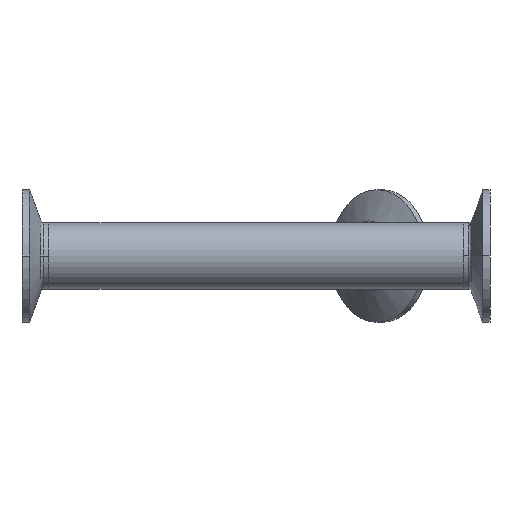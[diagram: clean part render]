
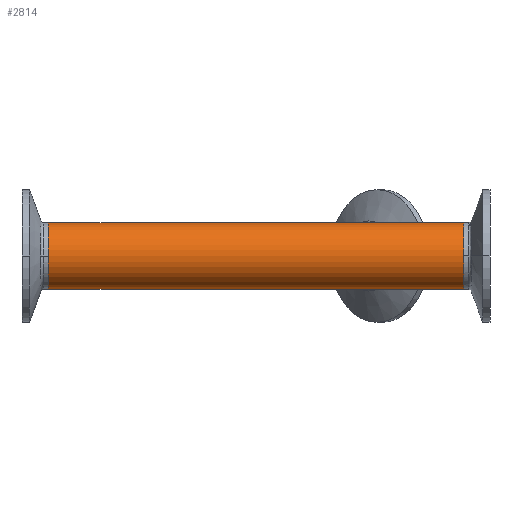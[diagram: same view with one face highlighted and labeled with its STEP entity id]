
A CAD part, front view. The second image highlights one B-rep face of the part: STEP entity #2814.
In plain terms, the highlighted cylindrical face has radius 12.7 mm (diameter 25.4 mm), a partial arc.
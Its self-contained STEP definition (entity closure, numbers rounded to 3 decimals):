
#19 = DIRECTION ( 'NONE',  ( 0., 0., -1. ) ) ;
#76 = CARTESIAN_POINT ( 'NONE',  ( -28.1, 0., 12.7 ) ) ;
#132 = ORIENTED_EDGE ( 'NONE', *, *, #3194, .F. ) ;
#209 = VERTEX_POINT ( 'NONE', #2159 ) ;
#237 = VECTOR ( 'NONE', #2610, 1000. ) ;
#310 = CARTESIAN_POINT ( 'NONE',  ( -28.1, 0., -12.7 ) ) ;
#371 = AXIS2_PLACEMENT_3D ( 'NONE', #687, #1314, #19 ) ;
#625 = ORIENTED_EDGE ( 'NONE', *, *, #4025, .T. ) ;
#673 = ORIENTED_EDGE ( 'NONE', *, *, #3309, .F. ) ;
#687 = CARTESIAN_POINT ( 'NONE',  ( -28.1, 0., 0. ) ) ;
#845 = CARTESIAN_POINT ( 'NONE',  ( -28.1, 0., 12.7 ) ) ;
#888 = LINE ( 'NONE', #76, #3374 ) ;
#919 = ORIENTED_EDGE ( 'NONE', *, *, #3174, .T. ) ;
#986 = CARTESIAN_POINT ( 'NONE',  ( -28.1, 0., 12.7 ) ) ;
#1001 = EDGE_CURVE ( 'NONE', #209, #2035, #1694, .T. ) ;
#1026 = DIRECTION ( 'NONE',  ( 1., 0., 0. ) ) ;
#1152 = CYLINDRICAL_SURFACE ( 'NONE', #371, 12.7 ) ;
#1214 = CARTESIAN_POINT ( 'NONE',  ( 129.7, 0., 12.7 ) ) ;
#1257 = DIRECTION ( 'NONE',  ( 1., 0., 0. ) ) ;
#1258 = DIRECTION ( 'NONE',  ( 1., 0., 0. ) ) ;
#1273 = LINE ( 'NONE', #986, #237 ) ;
#1314 = DIRECTION ( 'NONE',  ( 1., 0., 0. ) ) ;
#1525 = VERTEX_POINT ( 'NONE', #845 ) ;
#1694 = LINE ( 'NONE', #310, #4203 ) ;
#1743 = ORIENTED_EDGE ( 'NONE', *, *, #1001, .T. ) ;
#1848 = DIRECTION ( 'NONE',  ( -1., 0., 0. ) ) ;
#1857 = DIRECTION ( 'NONE',  ( 1., 0., 0. ) ) ;
#2035 = VERTEX_POINT ( 'NONE', #2563 ) ;
#2087 = EDGE_CURVE ( 'NONE', #1525, #209, #2882, .T. ) ;
#2091 = VERTEX_POINT ( 'NONE', #2251 ) ;
#2159 = CARTESIAN_POINT ( 'NONE',  ( -28.1, 0., -12.7 ) ) ;
#2172 = LINE ( 'NONE', #3553, #3225 ) ;
#2251 = CARTESIAN_POINT ( 'NONE',  ( 0., 0., 12.7 ) ) ;
#2330 = VERTEX_POINT ( 'NONE', #3655 ) ;
#2563 = CARTESIAN_POINT ( 'NONE',  ( 0., 0., -12.7 ) ) ;
#2610 = DIRECTION ( 'NONE',  ( 1., 0., 0. ) ) ;
#2814 = ADVANCED_FACE ( 'NONE', ( #2874 ), #1152, .T. ) ;
#2874 = FACE_OUTER_BOUND ( 'NONE', #3815, .T. ) ;
#2882 = CIRCLE ( 'NONE', #3950, 12.7 ) ;
#3098 = VERTEX_POINT ( 'NONE', #1214 ) ;
#3174 = EDGE_CURVE ( 'NONE', #2035, #2330, #2172, .T. ) ;
#3194 = EDGE_CURVE ( 'NONE', #1525, #2091, #1273, .T. ) ;
#3220 = CARTESIAN_POINT ( 'NONE',  ( -28.1, 0., 0. ) ) ;
#3225 = VECTOR ( 'NONE', #1258, 1000. ) ;
#3309 = EDGE_CURVE ( 'NONE', #2091, #3098, #888, .T. ) ;
#3374 = VECTOR ( 'NONE', #1026, 1000. ) ;
#3551 = DIRECTION ( 'NONE',  ( 0., 0., -1. ) ) ;
#3553 = CARTESIAN_POINT ( 'NONE',  ( -28.1, 0., -12.7 ) ) ;
#3655 = CARTESIAN_POINT ( 'NONE',  ( 129.7, 0., -12.7 ) ) ;
#3680 = CIRCLE ( 'NONE', #4000, 12.7 ) ;
#3770 = ORIENTED_EDGE ( 'NONE', *, *, #2087, .T. ) ;
#3802 = CARTESIAN_POINT ( 'NONE',  ( 129.7, 0., 0. ) ) ;
#3815 = EDGE_LOOP ( 'NONE', ( #132, #3770, #1743, #919, #625, #673 ) ) ;
#3950 = AXIS2_PLACEMENT_3D ( 'NONE', #3220, #1257, #3551 ) ;
#4000 = AXIS2_PLACEMENT_3D ( 'NONE', #3802, #1848, #4132 ) ;
#4025 = EDGE_CURVE ( 'NONE', #2330, #3098, #3680, .T. ) ;
#4132 = DIRECTION ( 'NONE',  ( 0., 0., -1. ) ) ;
#4203 = VECTOR ( 'NONE', #1857, 1000. ) ;
